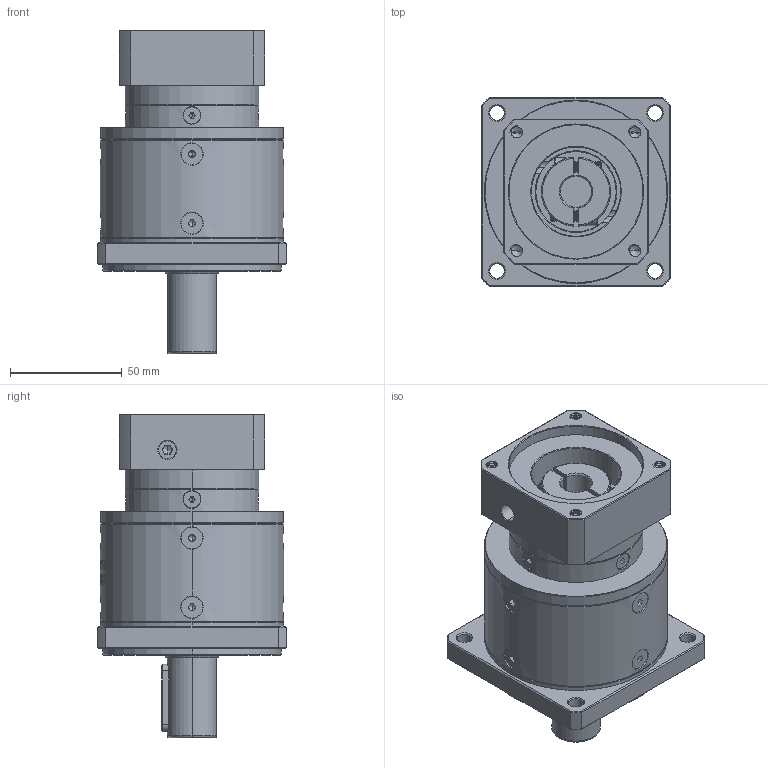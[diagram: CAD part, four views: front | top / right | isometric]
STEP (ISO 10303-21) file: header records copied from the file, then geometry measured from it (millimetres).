
FILE_DESCRIPTION (( 'STEP AP214' ), '1' );
FILE_NAME ('ZF080-D22-L2-P2-14-60-75-M6.step', '2023-08-19T06:56:11', ( '' ), ( '' ), 'SwSTEP 2.0', 'SolidWorks 2016', '' );
FILE_SCHEMA (( 'AUTOMOTIVE_DESIGN' ));
Length unit declared in the file: millimetre
Products named in the file (1): ZF080-D22-L2-P2-14-60-75-M6
Bounding box: 85 x 85 x 145 mm (x, y, z)
Volume: 483748.9 mm3; surface area: 70936.4 mm2
Topology: 18 solids, 18 shells, 2302 faces, 6056 edges, 3856 vertices
Faces by surface type: plane 1128, cylinder 411, bspline 394, cone 327, torus 42
Entity records: 122282 total; most frequent: CARTESIAN_POINT 45081, ORIENTED_EDGE 12036, DIRECTION 9061, EDGE_CURVE 6018, VERTEX_POINT 3856, VECTOR 3193, LINE 3193, AXIS2_PLACEMENT_3D 2934
